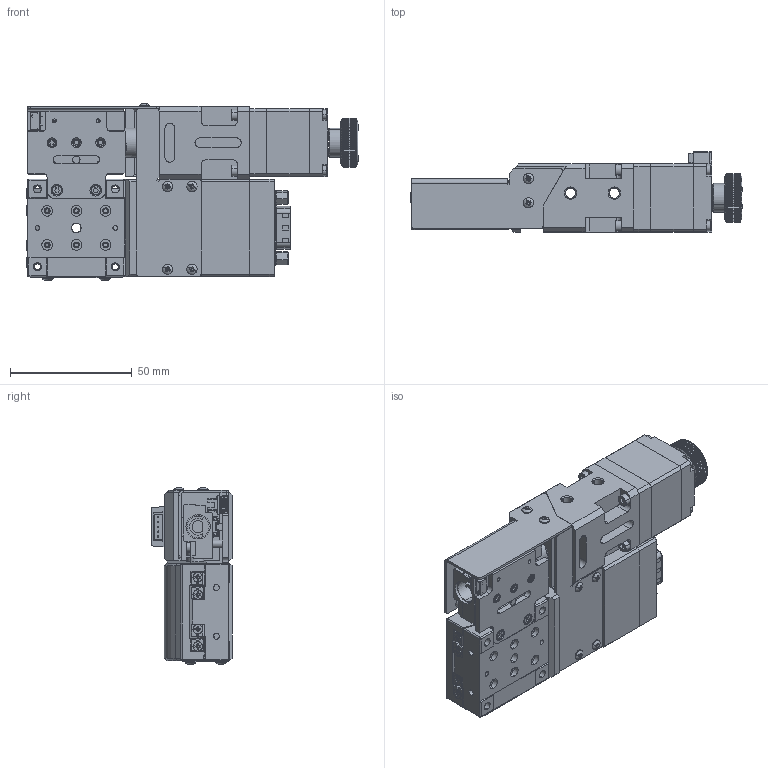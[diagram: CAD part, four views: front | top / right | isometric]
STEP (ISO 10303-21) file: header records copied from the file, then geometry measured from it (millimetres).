
FILE_DESCRIPTION (( 'STEP AP203' ), '1' );
FILE_NAME ('AXG4-40VM-2PR.STEP', '2024-10-01T03:29:28', ( '' ), ( '' ), 'SwSTEP 2.0', 'SolidWorks 2019', '' );
FILE_SCHEMA (( 'CONFIG_CONTROL_DESIGN' ));
Products named in the file (1): AXG4-40VM-2PR
Bounding box: 136.45 x 33 x 72.77 mm (x, y, z)
Surface area: 54596.9 mm2 (no closed solid volume)
Topology: 0 solids, 120 shells, 2081 faces, 7124 edges, 4991 vertices
Faces by surface type: plane 1117, cylinder 497, torus 238, cone 157, bspline 44, sphere 28
Entity records: 83614 total; most frequent: CARTESIAN_POINT 24073, DIRECTION 11975, ORIENTED_EDGE 11678, EDGE_CURVE 7062, VERTEX_POINT 4991, AXIS2_PLACEMENT_3D 4179, VECTOR 3617, LINE 3617
